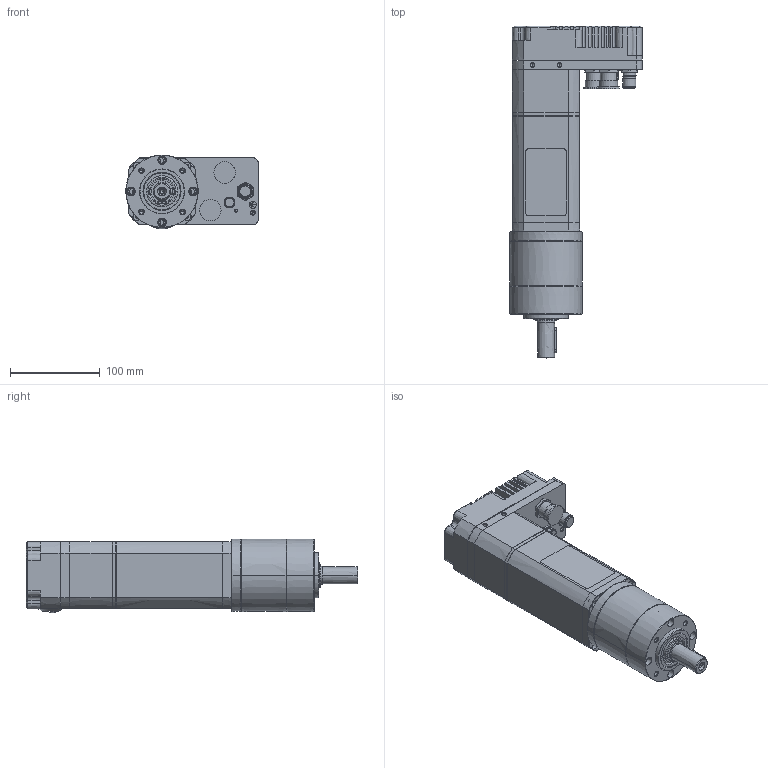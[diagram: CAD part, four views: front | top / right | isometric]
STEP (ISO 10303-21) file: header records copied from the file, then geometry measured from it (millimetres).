
FILE_DESCRIPTION((''),'2;1');
FILE_NAME('8037E1_2STAGES','2018-09-17T',('alecma1'),('CROUZET-AUTOMATISMES'),'CREO PARAMETRIC BY PTC INC, 2017170','CREO PARAMETRIC BY PTC INC, 2017170','');
FILE_SCHEMA(('AP203_CONFIGURATION_CONTROLLED_3D_DESIGN_OF_MECHANICAL_PARTS_AND_ASSEMBLIES_MIM_LF { 1 0 10303 403 2 1 2 }'));
Products named in the file (1): 8037E1_2STAGES
Bounding box: 148 x 370.85 x 82.5 mm (x, y, z)
Surface area: 171135.4 mm2 (no closed solid volume)
Topology: 0 solids, 0 shells, 752 faces, 3896 edges, 3844 vertices
Faces by surface type: bspline 715, torus 33, sphere 4
Entity records: 76285 total; most frequent: CARTESIAN_POINT 35038, DIRECTION 6063, TRIMMED_CURVE 5094, VECTOR 4224, LINE 4224, DEFINITIONAL_REPRESENTATION 3825, PCURVE 3825, COMPOSITE_CURVE_SEGMENT 3825
